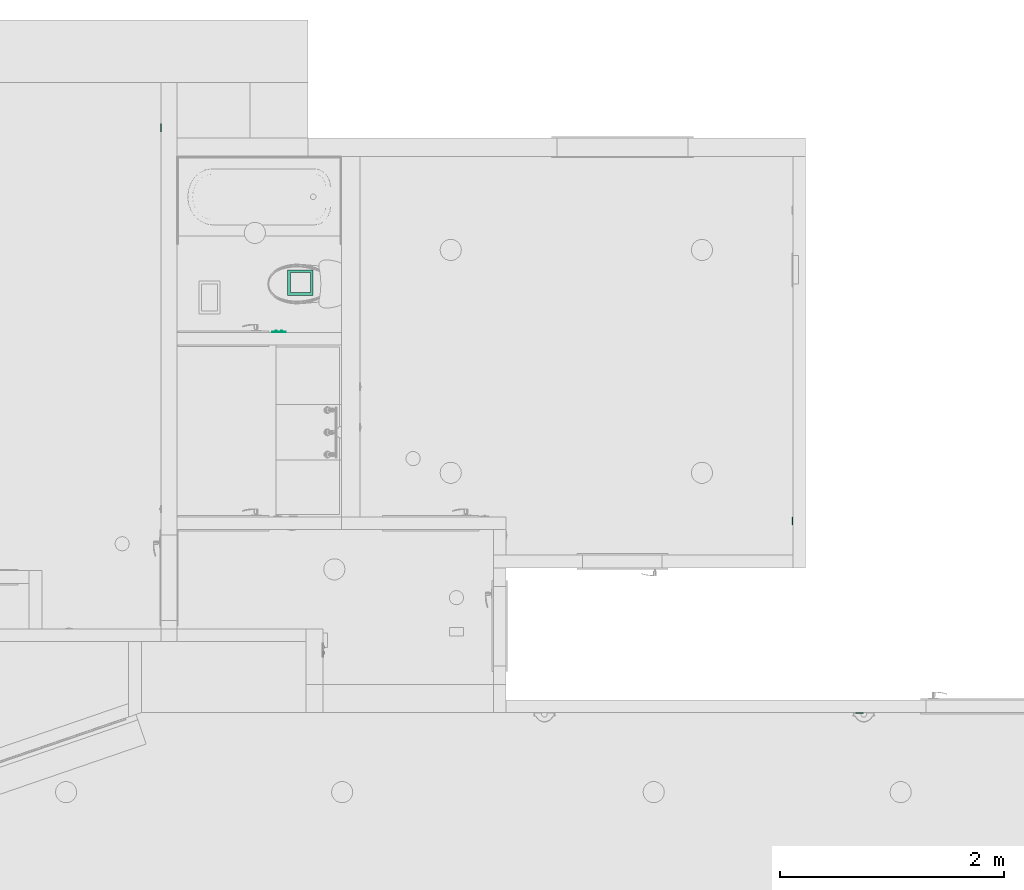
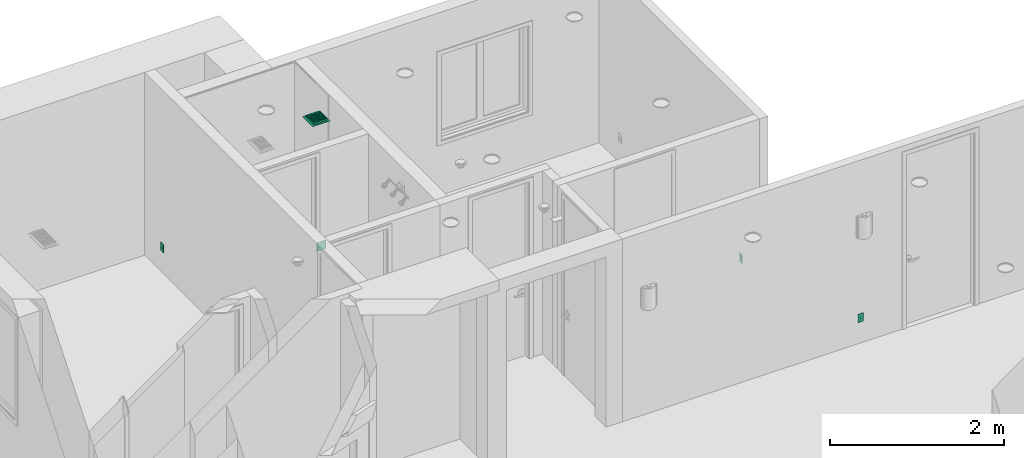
# One storey, part 11 of 48: 4 flow controllers, 1 distribution flow element.
"""IFC2X3 building model written with IfcOpenShell, lengths in inches."""

from ifc_helpers import new_model, entity, si_unit, converted_unit, derived_unit, money_unit, direction, frame, origin_with_axes, place, context, subcontext, project, spatial, open_shell, faceted_brep, surface_model, source, transform, mapped, type_object, element, save


model = new_model("IFC2X3")

# Units and contexts
model_context = context("Model", 3, precision=0.00039370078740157, world=origin_with_axes(), true_north=direction((0.0, 1.0)))
plan_context = context("Plan", 3, precision=0.00039370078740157, world=origin_with_axes(), true_north=direction((0.0, 1.0)))
body_context = subcontext(model_context, "Body", "Model", "MODEL_VIEW")
ifc_project = project(units=[converted_unit("LENGTHUNIT", "INCH", entity("IfcPositiveLengthMeasure", 0.0254), si_unit("LENGTHUNIT", "METRE"), dimensions=[1, 0, 0, 0, 0, 0, 0]), converted_unit("AREAUNIT", "SQUARE_FOOT", entity("IfcPositiveLengthMeasure", 0.09290304), si_unit("AREAUNIT", "SQUARE_METRE"), dimensions=[2, 0, 0, 0, 0, 0, 0]), si_unit("PLANEANGLEUNIT", "RADIAN"), si_unit("SOLIDANGLEUNIT", "STERADIAN"), money_unit("USD"), converted_unit("TIMEUNIT", "Year", entity("IfcTimeMeasure", 31557600.0), si_unit("TIMEUNIT", "SECOND"), dimensions=[0, 0, 1, 0, 0, 0, 0]), si_unit("MASSUNIT", "GRAM", prefix="KILO"), si_unit("THERMODYNAMICTEMPERATUREUNIT", "DEGREE_CELSIUS"), si_unit("LUMINOUSINTENSITYUNIT", "LUMEN"), si_unit("ENERGYUNIT", "JOULE", prefix="MEGA"), derived_unit("SPECIFICHEATCAPACITYUNIT", [(si_unit("ENERGYUNIT", "JOULE"), 1), (si_unit("MASSUNIT", "GRAM", prefix="KILO"), -1), (si_unit("THERMODYNAMICTEMPERATUREUNIT", "KELVIN"), -1)])], contexts=[model_context, plan_context])

# Site, building, storey
site_placement = place(None, origin_with_axes())
site = spatial("IfcSite", under=ifc_project, at=site_placement, Name="Site", CompositionType="ELEMENT")
building_placement = place(site_placement, origin_with_axes())
building = spatial("IfcBuilding", under=site, at=building_placement, Name="Building", CompositionType="ELEMENT")
storey_placement = place(building_placement, origin_with_axes())
storey = spatial("IfcBuildingStorey", under=building, at=storey_placement, Name="First Floor", CompositionType="ELEMENT", Elevation=0.0)

# Flow controllers
switching_device_type_1 = type_object("IfcSwitchingDeviceType", Name="Outlet 1 US", PredefinedType="NOTDEFINED")
shared_shape_1 = source(origin_with_axes(), body_context, "Body", "Brep", [
    faceted_brep([(0.39370078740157, -0.03444881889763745, -1.18110236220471), (0.5436477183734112, -0.03444881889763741, -0.7086614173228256), (0.5436477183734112, -0.2165354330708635, -0.7086614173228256), (0.39370078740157, -0.2165354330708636, -1.18110236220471), (-0.3937007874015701, -0.03444881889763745, -1.181102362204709), (-0.543647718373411, -0.03444881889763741, -0.7086614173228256), (-0.39370078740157, -0.03444881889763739, -0.2362204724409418), (0.3937007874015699, -0.03444881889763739, -0.2362204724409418), (-0.196850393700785, -0.03444881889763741, -0.7086614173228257), (-0.196850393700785, -0.0344488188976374, -0.4724409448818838), (-0.275590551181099, -0.0344488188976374, -0.4724409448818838), (-0.275590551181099, -0.03444881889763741, -0.7086614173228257), (0.196850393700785, -0.03444881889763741, -0.7086614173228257), (0.275590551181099, -0.03444881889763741, -0.7086614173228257), (0.275590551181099, -0.0344488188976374, -0.4724409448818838), (0.196850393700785, -0.0344488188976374, -0.4724409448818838), (-0.078740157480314, -0.03444881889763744, -1.102362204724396), (0.078740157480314, -0.03444881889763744, -1.102362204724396), (0.078740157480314, -0.03444881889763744, -1.023622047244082), (0.06819097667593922, -0.03444881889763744, -0.9842519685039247), (0.03937007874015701, -0.03444881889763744, -0.9554310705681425), (0.0, -0.03444881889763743, -0.9448818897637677), (-0.03937007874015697, -0.03444881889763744, -0.9554310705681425), (-0.06819097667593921, -0.03444881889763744, -0.9842519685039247), (-0.078740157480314, -0.03444881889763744, -1.023622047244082), (0.3937007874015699, -0.2165354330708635, -0.2362204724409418), (-0.39370078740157, -0.2165354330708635, -0.2362204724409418), (-0.543647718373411, -0.2165354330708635, -0.7086614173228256), (-0.3937007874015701, -0.2165354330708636, -1.181102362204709), (-0.196850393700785, -0.2165354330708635, -0.7086614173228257), (-0.275590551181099, -0.2165354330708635, -0.7086614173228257), (-0.275590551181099, -0.2165354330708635, -0.4724409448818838), (-0.196850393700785, -0.2165354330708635, -0.4724409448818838), (0.196850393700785, -0.2165354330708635, -0.7086614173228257), (0.196850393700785, -0.2165354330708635, -0.4724409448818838), (0.275590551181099, -0.2165354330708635, -0.4724409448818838), (0.275590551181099, -0.2165354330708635, -0.7086614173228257), (-0.078740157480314, -0.2165354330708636, -1.102362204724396), (-0.078740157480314, -0.2165354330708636, -1.023622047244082), (-0.06819097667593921, -0.2165354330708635, -0.9842519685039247), (-0.03937007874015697, -0.2165354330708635, -0.9554310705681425), (0.0, -0.2165354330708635, -0.9448818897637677), (0.03937007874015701, -0.2165354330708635, -0.9554310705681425), (0.06819097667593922, -0.2165354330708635, -0.9842519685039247), (0.078740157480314, -0.2165354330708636, -1.023622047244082), (0.078740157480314, -0.2165354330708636, -1.102362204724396)], [[[0, 1, 2, 3]], [[0, 4, 5, 6, 7, 1], [8, 9, 10, 11], [12, 13, 14, 15], [16, 17, 18, 19, 20, 21, 22, 23, 24]], [[1, 7, 25, 2]], [[3, 2, 25, 26, 27, 28], [29, 30, 31, 32], [33, 34, 35, 36], [37, 38, 39, 40, 41, 42, 43, 44, 45]], [[4, 0, 3, 28]], [[5, 4, 28, 27]], [[6, 5, 27, 26]], [[7, 6, 26, 25]], [[9, 8, 29, 32]], [[10, 9, 32, 31]], [[11, 10, 31, 30]], [[8, 11, 30, 29]], [[13, 12, 33, 36]], [[14, 13, 36, 35]], [[15, 14, 35, 34]], [[12, 15, 34, 33]], [[17, 16, 37, 45]], [[18, 17, 45, 44]], [[19, 18, 44, 43]], [[20, 19, 43, 42]], [[21, 20, 42, 41]], [[22, 21, 41, 40]], [[23, 22, 40, 39]], [[24, 23, 39, 38]], [[16, 24, 38, 37]]]),
    faceted_brep([(0.39370078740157, -0.03444881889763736, 0.2362204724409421), (0.5436477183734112, -0.03444881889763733, 0.7086614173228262), (0.5436477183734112, -0.2165354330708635, 0.7086614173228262), (0.39370078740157, -0.2165354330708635, 0.2362204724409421), (-0.3937007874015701, -0.03444881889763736, 0.2362204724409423), (-0.543647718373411, -0.03444881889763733, 0.7086614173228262), (-0.39370078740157, -0.0344488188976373, 1.18110236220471), (0.3937007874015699, -0.0344488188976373, 1.18110236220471), (-0.196850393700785, -0.03444881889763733, 0.7086614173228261), (-0.196850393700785, -0.03444881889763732, 0.944881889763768), (-0.275590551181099, -0.03444881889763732, 0.944881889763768), (-0.275590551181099, -0.03444881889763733, 0.7086614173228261), (0.196850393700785, -0.03444881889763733, 0.7086614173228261), (0.275590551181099, -0.03444881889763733, 0.7086614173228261), (0.275590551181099, -0.03444881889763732, 0.944881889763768), (0.196850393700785, -0.03444881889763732, 0.944881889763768), (-0.078740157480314, -0.03444881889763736, 0.3149606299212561), (0.078740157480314, -0.03444881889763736, 0.3149606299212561), (0.078740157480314, -0.03444881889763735, 0.3937007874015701), (0.06819097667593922, -0.03444881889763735, 0.4330708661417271), (0.03937007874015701, -0.03444881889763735, 0.4618917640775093), (0.0, -0.03444881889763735, 0.472440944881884), (-0.03937007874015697, -0.03444881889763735, 0.4618917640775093), (-0.06819097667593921, -0.03444881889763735, 0.4330708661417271), (-0.078740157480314, -0.03444881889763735, 0.3937007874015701), (0.3937007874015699, -0.2165354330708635, 1.18110236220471), (-0.39370078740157, -0.2165354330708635, 1.18110236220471), (-0.543647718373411, -0.2165354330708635, 0.7086614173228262), (-0.3937007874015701, -0.2165354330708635, 0.2362204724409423), (-0.196850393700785, -0.2165354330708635, 0.7086614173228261), (-0.275590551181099, -0.2165354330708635, 0.7086614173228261), (-0.275590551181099, -0.2165354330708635, 0.944881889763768), (-0.196850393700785, -0.2165354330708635, 0.944881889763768), (0.196850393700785, -0.2165354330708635, 0.7086614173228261), (0.196850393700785, -0.2165354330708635, 0.944881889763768), (0.275590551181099, -0.2165354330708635, 0.944881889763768), (0.275590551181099, -0.2165354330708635, 0.7086614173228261), (-0.078740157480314, -0.2165354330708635, 0.3149606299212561), (-0.078740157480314, -0.2165354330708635, 0.3937007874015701), (-0.06819097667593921, -0.2165354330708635, 0.4330708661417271), (-0.03937007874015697, -0.2165354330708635, 0.4618917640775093), (0.0, -0.2165354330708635, 0.472440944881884), (0.03937007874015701, -0.2165354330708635, 0.4618917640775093), (0.06819097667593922, -0.2165354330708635, 0.4330708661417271), (0.078740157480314, -0.2165354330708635, 0.3937007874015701), (0.078740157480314, -0.2165354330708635, 0.3149606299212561)], [[[0, 1, 2, 3]], [[0, 4, 5, 6, 7, 1], [8, 9, 10, 11], [12, 13, 14, 15], [16, 17, 18, 19, 20, 21, 22, 23, 24]], [[1, 7, 25, 2]], [[3, 2, 25, 26, 27, 28], [29, 30, 31, 32], [33, 34, 35, 36], [37, 38, 39, 40, 41, 42, 43, 44, 45]], [[4, 0, 3, 28]], [[5, 4, 28, 27]], [[6, 5, 27, 26]], [[7, 6, 26, 25]], [[9, 8, 29, 32]], [[10, 9, 32, 31]], [[11, 10, 31, 30]], [[8, 11, 30, 29]], [[13, 12, 33, 36]], [[14, 13, 36, 35]], [[15, 14, 35, 34]], [[12, 15, 34, 33]], [[17, 16, 37, 45]], [[18, 17, 45, 44]], [[19, 18, 44, 43]], [[20, 19, 43, 42]], [[21, 20, 42, 41]], [[22, 21, 41, 40]], [[23, 22, 40, 39]], [[24, 23, 39, 38]], [[16, 24, 38, 37]]]),
    faceted_brep([(-1.343503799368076, -0.1377952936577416, -2.327755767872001), (1.343503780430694, -0.1377952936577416, -2.327755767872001), (1.343503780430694, -0.1377952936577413, 2.327755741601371), (-1.343503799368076, -0.1377952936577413, 2.327755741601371), (0.39370078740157, -0.1377952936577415, -1.18110236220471), (-0.3937007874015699, -0.1377952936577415, -1.181102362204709), (-0.5436477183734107, -0.1377952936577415, -0.7086614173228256), (-0.39370078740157, -0.1377952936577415, -0.2362204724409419), (0.3937007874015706, -0.1377952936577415, -0.2362204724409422), (0.5436477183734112, -0.1377952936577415, -0.7086614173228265), (-0.39370078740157, -0.1377952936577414, 1.18110236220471), (0.3937007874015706, -0.1377952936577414, 1.18110236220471), (0.5436477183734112, -0.1377952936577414, 0.7086614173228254), (0.39370078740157, -0.1377952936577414, 0.236220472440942), (-0.3937007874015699, -0.1377952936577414, 0.2362204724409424), (-0.5436477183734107, -0.1377952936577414, 0.7086614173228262), (-1.352419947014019, -0.1366214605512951, -2.336671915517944), (1.352419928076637, -0.1366214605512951, -2.336671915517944), (1.352419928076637, -0.1366214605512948, 2.336671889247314), (-1.352419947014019, -0.1366214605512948, 2.336671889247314), (0.39370078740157, -0.03444881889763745, -1.18110236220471), (-0.3937007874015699, -0.03444881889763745, -1.181102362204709), (-0.5436477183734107, -0.03444881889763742, -0.7086614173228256), (-0.39370078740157, -0.03444881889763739, -0.2362204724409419), (0.3937007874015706, -0.03444881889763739, -0.2362204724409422), (0.5436477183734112, -0.03444881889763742, -0.7086614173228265), (-0.39370078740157, -0.0344488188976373, 1.18110236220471), (0.3937007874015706, -0.0344488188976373, 1.18110236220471), (0.5436477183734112, -0.03444881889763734, 0.7086614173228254), (0.39370078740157, -0.03444881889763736, 0.236220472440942), (-0.3937007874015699, -0.03444881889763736, 0.2362204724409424), (-0.5436477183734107, -0.03444881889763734, 0.7086614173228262), (-1.36786294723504, -0.1277054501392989, -2.352114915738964), (1.367862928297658, -0.1277054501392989, -2.352114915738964), (1.367862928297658, -0.1277054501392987, 2.352114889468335), (-1.36786294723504, -0.1277054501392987, 2.352114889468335), (-1.376778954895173, -0.1122624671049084, -2.361030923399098), (1.376778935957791, -0.1122624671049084, -2.361030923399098), (1.376778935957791, -0.1122624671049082, 2.361030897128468), (-1.376778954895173, -0.1122624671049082, 2.361030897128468), (-1.377952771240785, -0.1033464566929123, -2.362204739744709), (1.377952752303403, -0.1033464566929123, -2.362204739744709), (1.377952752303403, -0.103346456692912, 2.36220471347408), (-1.377952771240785, -0.103346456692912, 2.36220471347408), (-1.377952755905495, 0.0, -2.36220472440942), (1.377952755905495, 0.0, -2.36220472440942), (1.377952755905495, 0.0, 2.36220472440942), (-1.377952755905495, 0.0, 2.36220472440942)], [[[0, 1, 2, 3], [4, 5, 6, 7, 8, 9], [10, 11, 12, 13, 14, 15]], [[1, 0, 16, 17]], [[2, 1, 17, 18]], [[3, 2, 18, 19]], [[0, 3, 19, 16]], [[4, 20, 21, 5]], [[5, 21, 22, 6]], [[6, 22, 23, 7]], [[7, 23, 24, 8]], [[8, 24, 25, 9]], [[9, 25, 20, 4]], [[11, 10, 26, 27]], [[12, 11, 27, 28]], [[13, 12, 28, 29]], [[14, 13, 29, 30]], [[15, 14, 30, 31]], [[10, 15, 31, 26]], [[17, 16, 32, 33]], [[18, 17, 33, 34]], [[19, 18, 34, 35]], [[16, 19, 35, 32]], [[22, 21, 20, 25, 24, 23]], [[28, 27, 26, 31, 30, 29]], [[33, 32, 36, 37]], [[34, 33, 37, 38]], [[35, 34, 38, 39]], [[32, 35, 39, 36]], [[37, 36, 40, 41]], [[38, 37, 41, 42]], [[39, 38, 42, 43]], [[36, 39, 43, 40]], [[41, 40, 44, 45]], [[42, 41, 45, 46]], [[43, 42, 46, 47]], [[40, 43, 47, 44]], [[46, 45, 44, 47]]]),
])
for number, where, z_axis, x_axis, name in (
    (1, (101.4999999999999, 424.9999999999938, 13.99803149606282), (0.0, 0.0, 1.0), (0.0, -1.0, 0.0), "FU - 029"),
    (2, (-120.9999999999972, 563.4999999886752, 13.99803149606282), (0.0, 0.0, 1.0), (0.0, -1.0, 0.0), "FU - 029"),
    (3, (125.0025692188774, 357.4999999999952, 13.99999999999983), (0.0, 0.0, 1.0), (1.0, 0.0, 0.0), "FU - 029"),
):
    element("IfcFlowController", number, at=place(storey_placement, frame(where, z_axis=z_axis, x_axis=x_axis)), inside=storey, type_object=switching_device_type_1, Name=name, context=body_context, shape_type="MappedRepresentation", body=[
        mapped(shared_shape_1, transform((0.0, 0.0, 0.0))),
    ])
switching_device_type_2 = type_object("IfcSwitchingDeviceType", Name="Switch US", PredefinedType="NOTDEFINED")
shared_shape_2 = source(origin_with_axes(), body_context, "Body", "Brep", [
    faceted_brep([(-1.18110236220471, 0.0, -0.5905511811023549), (-1.18110236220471, 0.0, 0.5905511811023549), (-0.7874015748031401, 0.0, 0.5905511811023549), (-0.7874015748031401, 0.0, -0.5905511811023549), (-1.18110236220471, -0.1033464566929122, -0.5905511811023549), (-1.18110236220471, -0.1033464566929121, 0.157480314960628), (-1.18110236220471, -0.4970472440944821, 0.1574803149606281), (-1.18110236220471, -0.4970472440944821, 0.472440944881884), (-1.18110236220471, -0.1033464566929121, 0.472440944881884), (-1.18110236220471, -0.103346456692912, 0.5905511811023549), (-0.7874015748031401, -0.1033464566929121, 0.5905511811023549), (-0.7874015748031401, -0.1033464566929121, 0.472440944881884), (-0.7874015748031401, -0.4970472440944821, 0.472440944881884), (-0.7874015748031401, -0.4970472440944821, 0.1574803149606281), (-0.7874015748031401, -0.1033464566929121, 0.157480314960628), (-0.7874015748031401, -0.1033464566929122, -0.5905511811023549)], [[[0, 1, 2, 3]], [[0, 4, 5, 6, 7, 8, 9, 1]], [[1, 9, 10, 2]], [[3, 2, 10, 11, 12, 13, 14, 15]], [[4, 0, 3, 15]], [[5, 4, 15, 14]], [[6, 5, 14, 13]], [[7, 6, 13, 12]], [[8, 7, 12, 11]], [[9, 8, 11, 10]]]),
    faceted_brep([(-1.259842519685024, 0.0, -0.669291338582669), (-0.7086614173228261, 0.0, -0.669291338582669), (-0.7086614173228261, -0.1771653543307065, -0.669291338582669), (-1.259842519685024, -0.1771653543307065, -0.669291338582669), (-1.259842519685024, 0.0, 0.669291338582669), (-0.7086614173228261, 0.0, 0.669291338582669), (-1.18110236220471, 0.0, -0.5905511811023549), (-0.78740157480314, 0.0, -0.5905511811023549), (-0.78740157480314, 0.0, 0.5905511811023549), (-1.18110236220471, 0.0, 0.5905511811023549), (-0.7086614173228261, -0.1771653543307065, 0.669291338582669), (-1.259842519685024, -0.1771653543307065, 0.669291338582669), (-1.18110236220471, -0.1771653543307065, -0.5905511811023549), (-1.18110236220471, -0.1771653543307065, 0.5905511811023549), (-0.78740157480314, -0.1771653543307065, 0.5905511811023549), (-0.78740157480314, -0.1771653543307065, -0.5905511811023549)], [[[0, 1, 2, 3]], [[0, 4, 5, 1], [6, 7, 8, 9]], [[1, 5, 10, 2]], [[3, 2, 10, 11], [12, 13, 14, 15]], [[4, 0, 3, 11]], [[5, 4, 11, 10]], [[7, 6, 12, 15]], [[8, 7, 15, 14]], [[9, 8, 14, 13]], [[6, 9, 13, 12]]]),
    faceted_brep([(0.0, -0.103346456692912, 2.362204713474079), (0.0, 0.0, 2.36220472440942), (-2.36220472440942, 0.0, 2.36220472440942), (-2.362204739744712, -0.103346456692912, 2.362204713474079), (0.0, 0.0, -2.36220472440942), (0.0, -0.1122624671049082, 2.361030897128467), (0.0, -0.1277054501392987, 2.352114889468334), (0.0, -0.1366214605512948, 2.336671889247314), (0.0, -0.1377952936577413, 2.32775574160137), (0.0, -0.1377952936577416, -2.327755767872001), (0.0, -0.1366214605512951, -2.336671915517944), (0.0, -0.1277054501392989, -2.352114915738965), (0.0, -0.1122624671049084, -2.361030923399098), (0.0, -0.1033464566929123, -2.36220473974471), (-2.36220472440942, 0.0, -2.36220472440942), (-0.7086614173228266, 0.0, -0.669291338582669), (-0.7086614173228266, 0.0, 0.669291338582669), (-1.259842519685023, 0.0, 0.669291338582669), (-1.259842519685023, 0.0, -0.669291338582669), (-2.362204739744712, -0.1033464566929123, -2.36220473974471), (-2.361030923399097, -0.1122624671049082, 2.361030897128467), (-2.352114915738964, -0.1277054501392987, 2.352114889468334), (-2.336671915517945, -0.1366214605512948, 2.336671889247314), (-2.327755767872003, -0.1377952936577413, 2.32775574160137), (-2.327755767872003, -0.1377952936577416, -2.327755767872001), (-1.259842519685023, -0.1377952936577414, 0.669291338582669), (-0.7086614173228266, -0.1377952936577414, 0.669291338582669), (-0.7086614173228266, -0.1377952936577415, -0.669291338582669), (-1.259842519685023, -0.1377952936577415, -0.669291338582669), (-2.336671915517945, -0.1366214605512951, -2.336671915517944), (-2.352114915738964, -0.1277054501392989, -2.352114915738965), (-2.361030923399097, -0.1122624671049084, -2.361030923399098)], [[[0, 1, 2, 3]], [[4, 1, 0, 5, 6, 7, 8, 9, 10, 11, 12, 13]], [[1, 4, 14, 2], [15, 16, 17, 18]], [[19, 3, 2, 14]], [[5, 0, 3, 20]], [[6, 5, 20, 21]], [[7, 6, 21, 22]], [[8, 7, 22, 23]], [[9, 8, 23, 24], [25, 26, 27, 28]], [[10, 9, 24, 29]], [[11, 10, 29, 30]], [[12, 11, 30, 31]], [[13, 12, 31, 19]], [[4, 13, 19, 14]], [[15, 27, 26, 16]], [[16, 26, 25, 17]], [[17, 25, 28, 18]], [[18, 28, 27, 15]], [[31, 20, 3, 19]], [[30, 21, 20, 31]], [[29, 22, 21, 30]], [[24, 23, 22, 29]]]),
    faceted_brep([(0.78740157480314, 0.0, -0.5905511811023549), (0.78740157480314, 0.0, 0.5905511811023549), (1.18110236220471, 0.0, 0.5905511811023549), (1.18110236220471, 0.0, -0.5905511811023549), (0.78740157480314, -0.1033464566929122, -0.5905511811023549), (0.78740157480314, -0.1033464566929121, 0.157480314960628), (0.78740157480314, -0.4970472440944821, 0.1574803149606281), (0.78740157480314, -0.4970472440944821, 0.472440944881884), (0.78740157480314, -0.1033464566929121, 0.472440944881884), (0.78740157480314, -0.103346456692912, 0.5905511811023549), (1.18110236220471, -0.1033464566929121, 0.5905511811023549), (1.18110236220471, -0.1033464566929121, 0.472440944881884), (1.18110236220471, -0.4970472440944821, 0.472440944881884), (1.18110236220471, -0.4970472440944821, 0.1574803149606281), (1.18110236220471, -0.1033464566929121, 0.157480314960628), (1.18110236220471, -0.1033464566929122, -0.5905511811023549)], [[[0, 1, 2, 3]], [[0, 4, 5, 6, 7, 8, 9, 1]], [[1, 9, 10, 2]], [[3, 2, 10, 11, 12, 13, 14, 15]], [[4, 0, 3, 15]], [[5, 4, 15, 14]], [[6, 5, 14, 13]], [[7, 6, 13, 12]], [[8, 7, 12, 11]], [[9, 8, 11, 10]]]),
    faceted_brep([(0.7086614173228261, 0.0, -0.669291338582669), (1.259842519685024, 0.0, -0.669291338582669), (1.259842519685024, -0.1771653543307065, -0.669291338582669), (0.7086614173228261, -0.1771653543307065, -0.669291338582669), (0.7086614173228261, 0.0, 0.669291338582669), (1.259842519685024, 0.0, 0.669291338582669), (0.78740157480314, 0.0, -0.5905511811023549), (1.18110236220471, 0.0, -0.5905511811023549), (1.18110236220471, 0.0, 0.5905511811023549), (0.78740157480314, 0.0, 0.5905511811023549), (1.259842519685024, -0.1771653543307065, 0.669291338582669), (0.7086614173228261, -0.1771653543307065, 0.669291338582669), (0.78740157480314, -0.1771653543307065, -0.5905511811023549), (0.78740157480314, -0.1771653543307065, 0.5905511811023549), (1.18110236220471, -0.1771653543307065, 0.5905511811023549), (1.18110236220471, -0.1771653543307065, -0.5905511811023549)], [[[0, 1, 2, 3]], [[0, 4, 5, 1], [6, 7, 8, 9]], [[1, 5, 10, 2]], [[3, 2, 10, 11], [12, 13, 14, 15]], [[4, 0, 3, 11]], [[5, 4, 11, 10]], [[7, 6, 12, 15]], [[8, 7, 15, 14]], [[9, 8, 14, 13]], [[6, 9, 13, 12]]]),
    faceted_brep([(0.0, 0.0, -2.36220472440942), (0.0, 0.0, 2.36220472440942), (2.362204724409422, 0.0, 2.36220472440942), (2.362204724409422, 0.0, -2.36220472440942), (1.259842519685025, 0.0, -0.669291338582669), (1.259842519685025, 0.0, 0.669291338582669), (0.7086614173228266, 0.0, 0.669291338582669), (0.7086614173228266, 0.0, -0.669291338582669), (0.0, -0.103346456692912, 2.362204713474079), (0.0, -0.1033464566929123, -2.36220473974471), (0.0, -0.1122624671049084, -2.361030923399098), (0.0, -0.1277054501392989, -2.352114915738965), (0.0, -0.1366214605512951, -2.336671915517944), (0.0, -0.1377952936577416, -2.327755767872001), (0.0, -0.1377952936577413, 2.32775574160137), (0.0, -0.1366214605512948, 2.336671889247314), (0.0, -0.1277054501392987, 2.352114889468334), (0.0, -0.1122624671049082, 2.361030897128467), (2.362204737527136, -0.103346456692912, 2.362204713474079), (2.362204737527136, -0.1033464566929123, -2.36220473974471), (1.259842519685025, -0.1377952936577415, -0.669291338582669), (1.259842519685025, -0.1377952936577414, 0.669291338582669), (0.7086614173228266, -0.1377952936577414, 0.669291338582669), (0.7086614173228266, -0.1377952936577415, -0.669291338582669), (2.361030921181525, -0.1122624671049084, -2.361030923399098), (2.352114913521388, -0.1277054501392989, -2.352114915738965), (2.336671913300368, -0.1366214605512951, -2.336671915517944), (2.327755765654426, -0.1377952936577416, -2.327755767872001), (2.327755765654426, -0.1377952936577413, 2.32775574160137), (2.336671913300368, -0.1366214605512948, 2.336671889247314), (2.352114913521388, -0.1277054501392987, 2.352114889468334), (2.361030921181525, -0.1122624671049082, 2.361030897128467)], [[[0, 1, 2, 3], [4, 5, 6, 7]], [[8, 1, 0, 9, 10, 11, 12, 13, 14, 15, 16, 17]], [[1, 8, 18, 2]], [[18, 19, 3, 2]], [[9, 0, 3, 19]], [[4, 20, 21, 5]], [[5, 21, 22, 6]], [[6, 22, 23, 7]], [[7, 23, 20, 4]], [[10, 9, 19, 24]], [[11, 10, 24, 25]], [[12, 11, 25, 26]], [[13, 12, 26, 27]], [[14, 13, 27, 28], [22, 21, 20, 23]], [[15, 14, 28, 29]], [[16, 15, 29, 30]], [[17, 16, 30, 31]], [[8, 17, 31, 18]], [[31, 24, 19, 18]], [[30, 25, 24, 31]], [[29, 26, 25, 30]], [[28, 27, 26, 29]]]),
])
flow_controller_placement = place(storey_placement, frame((-79.49681010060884, 491.4999999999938, 43.99999999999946), z_axis=(0.0, 0.0, 1.0), x_axis=(-1.0, 0.0, 0.0)))
element("IfcFlowController", 4, at=flow_controller_placement, inside=storey, type_object=switching_device_type_2, Name="OBJ-09", context=body_context, shape_type="MappedRepresentation", body=[
    mapped(shared_shape_2, transform((0.0, 0.0, 0.0))),
])

# Distribution flow element
valve_type = type_object("IfcValveType", Name="Ceiling Grille", PredefinedType="NOTDEFINED")
shared_shape_3 = source(origin_with_axes(), body_context, "Body", "SurfaceModel", [
    faceted_brep([(-4.499876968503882, 4.499876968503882, -0.196850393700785), (-4.499876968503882, 4.499876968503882, 0.0), (4.499876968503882, 4.499876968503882, 0.0), (4.499876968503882, 4.499876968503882, -0.196850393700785), (-4.499876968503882, -4.499876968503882, -0.196850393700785), (-4.499876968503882, -4.499876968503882, 0.0), (4.499876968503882, -4.499876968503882, 0.0), (-3.515624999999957, 3.515624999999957, 0.0), (3.515624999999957, 3.515624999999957, 0.0), (3.515624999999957, -3.515624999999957, 0.0), (-3.515624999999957, -3.515624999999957, 0.0), (4.499876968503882, -4.499876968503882, -0.196850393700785), (-3.515624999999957, 3.515624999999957, -0.196850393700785), (-3.515624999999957, -3.515624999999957, -0.196850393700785), (3.515624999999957, -3.515624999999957, -0.196850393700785), (3.515624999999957, 3.515624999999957, -0.196850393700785)], [[[0, 1, 2, 3]], [[4, 5, 1, 0]], [[1, 5, 6, 2], [7, 8, 9, 10]], [[3, 2, 6, 11]], [[0, 3, 11, 4], [12, 13, 14, 15]], [[11, 6, 5, 4]], [[15, 8, 7, 12]], [[14, 9, 8, 15]], [[13, 10, 9, 14]], [[12, 7, 10, 13]]]),
    surface_model("IfcShellBasedSurfaceModel", [(3.4762549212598, 3.499999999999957, -0.196850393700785), (3.4762549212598, 3.499999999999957, 0.78740157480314), (-3.4762549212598, 3.499999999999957, 0.78740157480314), (-3.4762549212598, 3.499999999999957, -0.196850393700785)], [open_shell([[[0, 1, 2, 3]]])]),
    surface_model("IfcShellBasedSurfaceModel", [(3.4762549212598, 2.499999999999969, -0.196850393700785), (3.4762549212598, 2.499999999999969, 0.78740157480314), (-3.4762549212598, 2.499999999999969, 0.78740157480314), (-3.4762549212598, 2.499999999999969, -0.196850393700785)], [open_shell([[[0, 1, 2, 3]]])]),
    surface_model("IfcShellBasedSurfaceModel", [(3.4762549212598, 1.499999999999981, -0.196850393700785), (3.4762549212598, 1.499999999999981, 0.78740157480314), (-3.4762549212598, 1.499999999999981, 0.78740157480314), (-3.4762549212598, 1.499999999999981, -0.196850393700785)], [open_shell([[[0, 1, 2, 3]]])]),
    surface_model("IfcShellBasedSurfaceModel", [(3.4762549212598, 0.499999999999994, -0.196850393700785), (3.4762549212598, 0.4999999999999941, 0.78740157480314), (-3.4762549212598, 0.4999999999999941, 0.78740157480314), (-3.4762549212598, 0.499999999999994, -0.196850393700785)], [open_shell([[[0, 1, 2, 3]]])]),
    surface_model("IfcShellBasedSurfaceModel", [(3.4762549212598, -0.499999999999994, -0.196850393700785), (3.4762549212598, -0.4999999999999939, 0.78740157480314), (-3.4762549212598, -0.4999999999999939, 0.78740157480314), (-3.4762549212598, -0.499999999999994, -0.196850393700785)], [open_shell([[[0, 1, 2, 3]]])]),
    surface_model("IfcShellBasedSurfaceModel", [(3.4762549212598, -1.499999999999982, -0.196850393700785), (3.4762549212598, -1.499999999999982, 0.78740157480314), (-3.4762549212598, -1.499999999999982, 0.78740157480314), (-3.4762549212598, -1.499999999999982, -0.196850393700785)], [open_shell([[[0, 1, 2, 3]]])]),
    surface_model("IfcShellBasedSurfaceModel", [(3.4762549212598, -2.499999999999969, -0.196850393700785), (3.4762549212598, -2.499999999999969, 0.78740157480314), (-3.4762549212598, -2.499999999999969, 0.78740157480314), (-3.4762549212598, -2.499999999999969, -0.196850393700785)], [open_shell([[[0, 1, 2, 3]]])]),
    surface_model("IfcShellBasedSurfaceModel", [(3.4762549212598, -3.499999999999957, -0.196850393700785), (3.4762549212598, -3.499999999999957, 0.78740157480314), (-3.4762549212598, -3.499999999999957, 0.78740157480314), (-3.4762549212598, -3.499999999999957, -0.196850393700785)], [open_shell([[[0, 1, 2, 3]]])]),
    surface_model("IfcShellBasedSurfaceModel", [(-3.499999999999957, -3.4762549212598, -0.196850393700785), (-3.499999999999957, -3.4762549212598, 0.78740157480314), (-3.499999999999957, 3.4762549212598, 0.78740157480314), (-3.499999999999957, 3.4762549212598, -0.196850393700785)], [open_shell([[[0, 1, 2, 3]]])]),
    surface_model("IfcShellBasedSurfaceModel", [(-2.499999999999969, -3.4762549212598, -0.196850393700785), (-2.499999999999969, -3.4762549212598, 0.78740157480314), (-2.49999999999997, 3.4762549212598, 0.78740157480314), (-2.49999999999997, 3.4762549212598, -0.196850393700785)], [open_shell([[[0, 1, 2, 3]]])]),
    surface_model("IfcShellBasedSurfaceModel", [(-1.499999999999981, -3.4762549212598, -0.196850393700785), (-1.499999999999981, -3.4762549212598, 0.78740157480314), (-1.499999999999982, 3.4762549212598, 0.78740157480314), (-1.499999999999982, 3.4762549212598, -0.196850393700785)], [open_shell([[[0, 1, 2, 3]]])]),
    surface_model("IfcShellBasedSurfaceModel", [(-0.499999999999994, -3.4762549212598, -0.196850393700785), (-0.4999999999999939, -3.4762549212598, 0.78740157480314), (-0.4999999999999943, 3.4762549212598, 0.78740157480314), (-0.4999999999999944, 3.4762549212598, -0.196850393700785)], [open_shell([[[0, 1, 2, 3]]])]),
    surface_model("IfcShellBasedSurfaceModel", [(0.499999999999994, -3.4762549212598, -0.196850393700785), (0.4999999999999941, -3.4762549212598, 0.78740157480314), (0.4999999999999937, 3.4762549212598, 0.78740157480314), (0.4999999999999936, 3.4762549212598, -0.196850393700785)], [open_shell([[[0, 1, 2, 3]]])]),
    surface_model("IfcShellBasedSurfaceModel", [(1.499999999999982, -3.4762549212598, -0.196850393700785), (1.499999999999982, -3.4762549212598, 0.78740157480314), (1.499999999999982, 3.4762549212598, 0.78740157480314), (1.499999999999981, 3.4762549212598, -0.196850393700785)], [open_shell([[[0, 1, 2, 3]]])]),
    surface_model("IfcShellBasedSurfaceModel", [(2.499999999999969, -3.4762549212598, -0.196850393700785), (2.499999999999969, -3.4762549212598, 0.78740157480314), (2.499999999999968, 3.4762549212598, 0.78740157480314), (2.499999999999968, 3.4762549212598, -0.196850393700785)], [open_shell([[[0, 1, 2, 3]]])]),
    surface_model("IfcShellBasedSurfaceModel", [(3.499999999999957, -3.4762549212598, -0.196850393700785), (3.499999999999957, -3.4762549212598, 0.78740157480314), (3.499999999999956, 3.4762549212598, 0.78740157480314), (3.499999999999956, 3.4762549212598, -0.196850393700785)], [open_shell([[[0, 1, 2, 3]]])]),
    surface_model("IfcShellBasedSurfaceModel", [(-3.515624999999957, -3.515624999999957, 0.0), (-3.515624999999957, -3.515624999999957, 0.999999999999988), (-3.515624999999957, 3.515624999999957, 0.9999999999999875), (-3.515624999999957, 3.515624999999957, 0.0), (3.515624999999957, -3.515624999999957, 0.0), (3.515624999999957, -3.515624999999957, 0.999999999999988), (3.515624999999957, 3.515624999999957, 0.9999999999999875), (3.515624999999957, 3.515624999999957, 0.0)], [open_shell([[[0, 1, 2, 3]], [[4, 5, 1, 0]], [[3, 2, 6, 7]], [[7, 6, 5, 4]]])]),
])
distribution_flow_element_placement = place(storey_placement, frame((-71.99989264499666, 509.0001230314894, 100.9999999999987), z_axis=(0.0, 0.0, 1.0), x_axis=(-1.0, 0.0, 0.0)))
element("IfcDistributionFlowElement", 5, at=distribution_flow_element_placement, inside=storey, type_object=valve_type, Name="FU - 007", context=body_context, shape_type="MappedRepresentation", body=[
    mapped(shared_shape_3, transform((0.0, 0.0, 0.0))),
])

save(model, "model.ifc")
